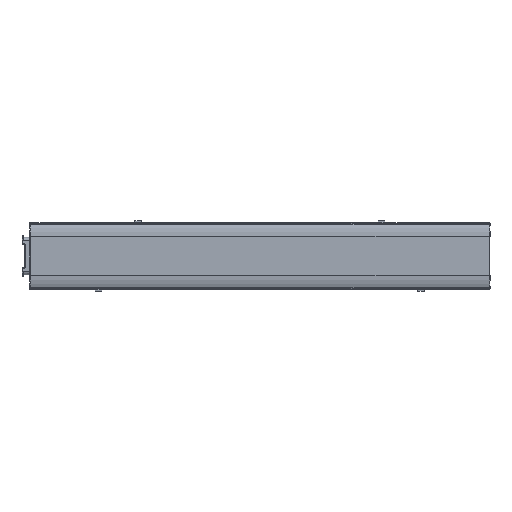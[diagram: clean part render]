
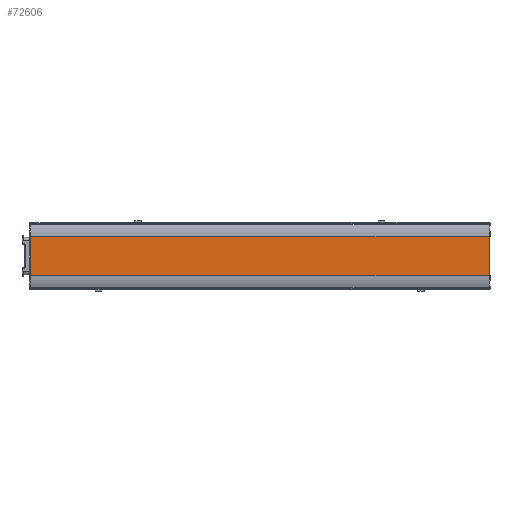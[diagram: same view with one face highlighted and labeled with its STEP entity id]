
A CAD part, top view. The second image highlights one B-rep face of the part: STEP entity #72606.
In plain terms, the highlighted planar face has unit normal (0, 0, 1).
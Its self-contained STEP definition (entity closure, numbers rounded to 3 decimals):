
#29291=CARTESIAN_POINT(' ',(138.814,12.,8.4));
#29296=DIRECTION(' ',(-1.,0.,0.));
#29301=VECTOR(' ',#29296,1.);
#29306=LINE('',#29291,#29301);
#29311=CARTESIAN_POINT(' ',(138.814,12.,8.4));
#29312=VERTEX_POINT(' ',#29311);
#29316=CARTESIAN_POINT(' ',(-138.814,12.,8.4));
#29317=VERTEX_POINT(' ',#29316);
#29321=EDGE_CURVE(' ',#29312,#29317,#29306,.T.);
#67146=CARTESIAN_POINT(' ',(-138.814,-12.,8.4));
#67147=VERTEX_POINT(' ',#67146);
#67411=CARTESIAN_POINT(' ',(-138.814,12.,8.4));
#67416=DIRECTION(' ',(0.,-1.,0.));
#67421=VECTOR(' ',#67416,1.);
#67426=LINE('',#67411,#67421);
#67431=EDGE_CURVE(' ',#29317,#67147,#67426,.T.);
#72496=DIRECTION(' ',(0.,0.,1.));
#72501=CARTESIAN_POINT(' ',(-138.814,-12.,8.4));
#72506=DIRECTION(' ',(1.,0.,0.));
#72511=AXIS2_PLACEMENT_3D(' ',#72501,#72496,#72506);
#72516=PLANE('',#72511);
#72521=CARTESIAN_POINT(' ',(-138.814,-12.,8.4));
#72526=DIRECTION(' ',(1.,0.,0.));
#72531=VECTOR(' ',#72526,1.);
#72536=LINE('',#72521,#72531);
#72541=CARTESIAN_POINT(' ',(138.814,-12.,8.4));
#72542=VERTEX_POINT(' ',#72541);
#72546=EDGE_CURVE(' ',#67147,#72542,#72536,.T.);
#72551=ORIENTED_EDGE(' ',*,*,#72546,.T.);
#72556=CARTESIAN_POINT(' ',(138.814,-12.,8.4));
#72561=DIRECTION(' ',(0.,1.,0.));
#72566=VECTOR(' ',#72561,1.);
#72571=LINE('',#72556,#72566);
#72576=EDGE_CURVE(' ',#72542,#29312,#72571,.T.);
#72581=ORIENTED_EDGE(' ',*,*,#72576,.T.);
#72586=ORIENTED_EDGE(' ',*,*,#29321,.T.);
#72591=ORIENTED_EDGE(' ',*,*,#67431,.T.);
#72596=EDGE_LOOP(' ',(#72551,#72581,#72586,#72591));
#72601=FACE_OUTER_BOUND(' ',#72596,.T.);
#72606=ADVANCED_FACE('',(#72601),#72516,.T.);
